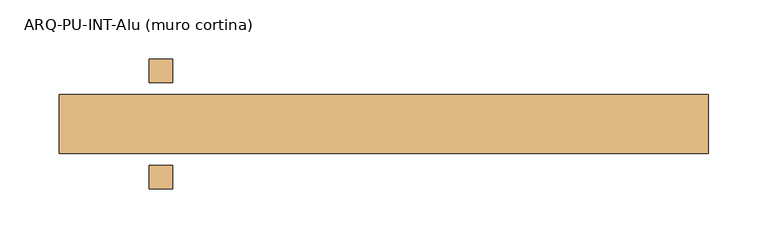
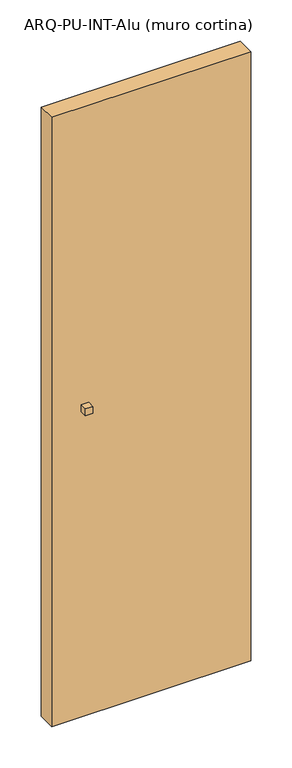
"""IFC4 building model written with IfcOpenShell, lengths in millimetres: door geometry, ARQ-PU-INT-Alu (muro cortina) : ARQ-PU-IN-Alu-sshh."""

from ifc_helpers import new_model, si_unit, frame, origin, origin_with_axes, place, context, project, spatial, polyline, outline, extrude, source, transform, mapped, element, save


def arq_pu_int_alu_muro_cortina_35e93262(model_context):
    return source(origin(), model_context, "Body", "SweptSolid", [
        extrude(outline(polyline([(-178.8, 30.0), (-178.8, 10.0), (-198.8, 10.0), (-198.8, 30.0), (-178.8, 30.0)])), frame((0.0, 0.0, 900.0), z_axis=(0.0, 0.0, 1.0), x_axis=(1.0, 0.0, 0.0)), (0.0, 0.0, 1.0), 20.0),
        extrude(outline(polyline([(-198.8, -80.0), (-198.8, -60.0), (-178.8, -60.0), (-178.8, -80.0), (-198.8, -80.0)])), frame((0.0, 0.0, 900.0), z_axis=(0.0, 0.0, 1.0), x_axis=(1.0, 0.0, 0.0)), (0.0, 0.0, 1.0), 20.0),
        extrude(outline(polyline([(275.0, -50.0), (-275.0, -50.0), (-275.0, 0.0), (275.0, 0.0), (275.0, -50.0)])), origin_with_axes(), (0.0, 0.0, 1.0), 1780.0),
    ])


if __name__ == "__main__":
    model = new_model("IFC4")
    model_context = context("Model", 3, world=origin())
    ifc_project = project(units=[si_unit("LENGTHUNIT", "METRE", prefix="MILLI")], contexts=[model_context])
    site = spatial("IfcSite", under=ifc_project)
    building = spatial("IfcBuilding", under=site)
    placement = place(None, origin())
    arq_pu_int_alu_muro_cortina_shape = arq_pu_int_alu_muro_cortina_35e93262(model_context)
    element("IfcDoor", 1, ObjectType="ARQ-PU-INT-Alu (muro cortina) : ARQ-PU-IN-Alu-sshh", at=placement, inside=building, context=model_context, shape_type="MappedRepresentation", body=[
        mapped(arq_pu_int_alu_muro_cortina_shape, transform((0.0, 0.0, 0.0), x_axis=(1.0, 0.0, 0.0), y_axis=(0.0, 1.0, 0.0), z_axis=(0.0, 0.0, 1.0))),
    ])
    save(model, "model.ifc")
